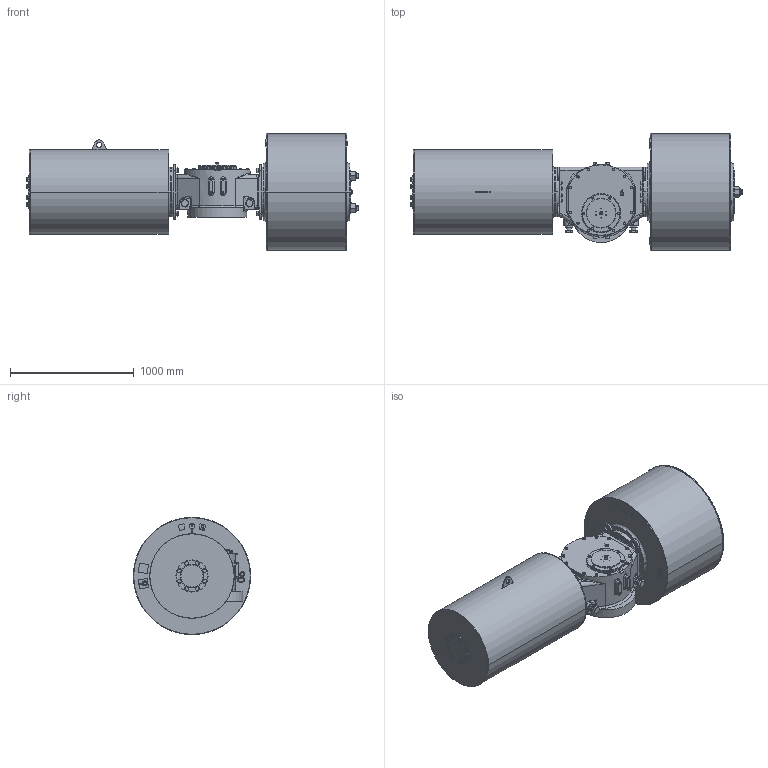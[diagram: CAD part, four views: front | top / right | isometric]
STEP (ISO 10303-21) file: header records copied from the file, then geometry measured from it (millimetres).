
FILE_DESCRIPTION (( 'STEP AP203' ), '1' );
FILE_NAME ('VTS6-900-SR-FO.STEP', '2023-01-01T09:57:18', ( '' ), ( '' ), 'SwSTEP 2.0', 'SolidWorks 2020', '' );
FILE_SCHEMA (( 'CONFIG_CONTROL_DESIGN' ));
Length unit declared in the file: millimetre
Products named in the file (1): VTS6-900-SR-FO
Bounding box: 2677.72 x 947 x 947 mm (x, y, z)
Volume: 986790989.8 mm3; surface area: 9174930.1 mm2
Topology: 4 solids, 15 shells, 2456 faces, 6265 edges, 3961 vertices
Faces by surface type: plane 985, cylinder 771, cone 609, bspline 91
Entity records: 88900 total; most frequent: CARTESIAN_POINT 30339, ORIENTED_EDGE 12390, DIRECTION 12194, EDGE_CURVE 6195, AXIS2_PLACEMENT_3D 4874, VERTEX_POINT 3961, EDGE_LOOP 2776, CIRCLE 2508
